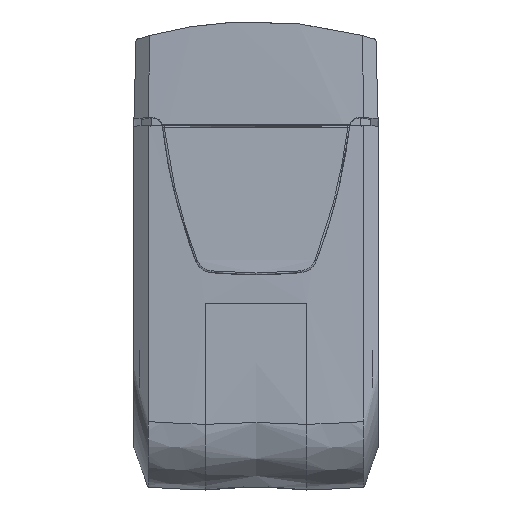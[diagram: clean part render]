
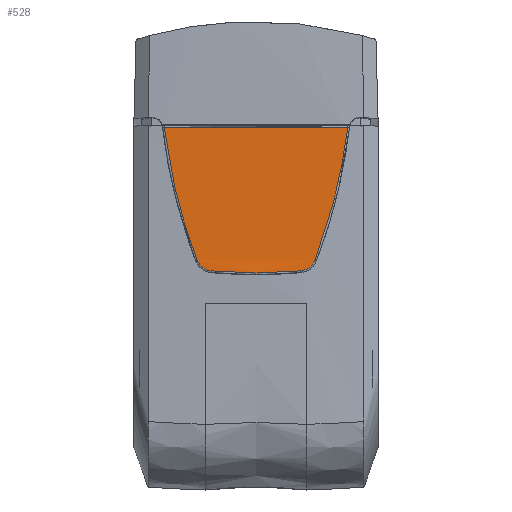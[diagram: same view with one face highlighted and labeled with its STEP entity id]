
A CAD part, left-side view. The second image highlights one B-rep face of the part: STEP entity #528.
In plain terms, the highlighted cylindrical face has radius 84.625 mm (diameter 169.25 mm), a partial arc.
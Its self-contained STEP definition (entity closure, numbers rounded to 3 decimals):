
#389=FACE_OUTER_BOUND('',#744,.T.);
#528=ADVANCED_FACE('',(#389),#579,.T.);
#579=CYLINDRICAL_SURFACE('',#1876,84.625);
#744=EDGE_LOOP('',(#1179,#1180,#1181,#1182,#1183,#1184));
#1179=ORIENTED_EDGE('',*,*,#1613,.T.);
#1180=ORIENTED_EDGE('',*,*,#1614,.T.);
#1181=ORIENTED_EDGE('',*,*,#1615,.T.);
#1182=ORIENTED_EDGE('',*,*,#1616,.T.);
#1183=ORIENTED_EDGE('',*,*,#1617,.T.);
#1184=ORIENTED_EDGE('',*,*,#1618,.T.);
#1397=VERTEX_POINT('',#4394);
#1398=VERTEX_POINT('',#4395);
#1399=VERTEX_POINT('',#4403);
#1400=VERTEX_POINT('',#4408);
#1401=VERTEX_POINT('',#4422);
#1402=VERTEX_POINT('',#4427);
#1613=EDGE_CURVE('',#1397,#1398,#1785,.T.);
#1614=EDGE_CURVE('',#1398,#1399,#1786,.T.);
#1615=EDGE_CURVE('',#1399,#1400,#1787,.T.);
#1616=EDGE_CURVE('',#1400,#1401,#1788,.T.);
#1617=EDGE_CURVE('',#1401,#1402,#1789,.T.);
#1618=EDGE_CURVE('',#1402,#1397,#1790,.T.);
#1785=B_SPLINE_CURVE_WITH_KNOTS('',3,(#4390,#4391,#4392,#4393),
 .UNSPECIFIED.,.F.,.F.,(4,4),(0.,1.),.UNSPECIFIED.);
#1786=B_SPLINE_CURVE_WITH_KNOTS('',3,(#4396,#4397,#4398,#4399,#4400,#4401,
#4402),.UNSPECIFIED.,.F.,.F.,(4,3,4),(0.,0.5,1.),
 .UNSPECIFIED.);
#1787=B_SPLINE_CURVE_WITH_KNOTS('',3,(#4404,#4405,#4406,#4407),
 .UNSPECIFIED.,.F.,.F.,(4,4),(0.,1.),.UNSPECIFIED.);
#1788=B_SPLINE_CURVE_WITH_KNOTS('',3,(#4409,#4410,#4411,#4412,#4413,#4414,
#4415,#4416,#4417,#4418,#4419,#4420,#4421),.UNSPECIFIED.,.F.,.F.,(4,3,3,
3,4),(0.,0.087,0.391,0.696,1.),
 .UNSPECIFIED.);
#1789=B_SPLINE_CURVE_WITH_KNOTS('',3,(#4423,#4424,#4425,#4426),
 .UNSPECIFIED.,.F.,.F.,(4,4),(0.,1.),.UNSPECIFIED.);
#1790=B_SPLINE_CURVE_WITH_KNOTS('',3,(#4428,#4429,#4430,#4431,#4432,#4433,
#4434,#4435,#4436,#4437,#4438,#4439,#4440),.UNSPECIFIED.,.F.,.F.,(4,3,3,
3,4),(0.,0.088,0.392,0.696,1.),
 .UNSPECIFIED.);
#1876=AXIS2_PLACEMENT_3D('',#4441,#2102,#2103);
#2102=DIRECTION('',(0.,0.,1.));
#2103=DIRECTION('',(0.,-1.,0.));
#4390=CARTESIAN_POINT('',(-44.045,-3.136,12.288));
#4391=CARTESIAN_POINT('',(-44.013,-4.004,14.559));
#4392=CARTESIAN_POINT('',(-43.979,-4.597,16.953));
#4393=CARTESIAN_POINT('',(-43.962,-4.889,19.367));
#4394=CARTESIAN_POINT('',(-44.045,-3.136,12.288));
#4395=CARTESIAN_POINT('',(-43.962,-4.889,19.367));
#4396=CARTESIAN_POINT('',(-43.962,-4.889,19.367));
#4397=CARTESIAN_POINT('',(-44.056,-3.262,19.375));
#4398=CARTESIAN_POINT('',(-44.103,-1.63,19.38));
#4399=CARTESIAN_POINT('',(-44.103,0.,19.38));
#4400=CARTESIAN_POINT('',(-44.103,1.63,19.38));
#4401=CARTESIAN_POINT('',(-44.056,3.262,19.375));
#4402=CARTESIAN_POINT('',(-43.962,4.889,19.367));
#4403=CARTESIAN_POINT('',(-43.962,4.889,19.367));
#4404=CARTESIAN_POINT('',(-43.962,4.889,19.367));
#4405=CARTESIAN_POINT('',(-43.979,4.597,16.953));
#4406=CARTESIAN_POINT('',(-44.013,4.004,14.559));
#4407=CARTESIAN_POINT('',(-44.045,3.136,12.288));
#4408=CARTESIAN_POINT('',(-44.045,3.136,12.288));
#4409=CARTESIAN_POINT('',(-44.045,3.136,12.288));
#4410=CARTESIAN_POINT('',(-44.046,3.125,12.261));
#4411=CARTESIAN_POINT('',(-44.046,3.113,12.234));
#4412=CARTESIAN_POINT('',(-44.047,3.1,12.208));
#4413=CARTESIAN_POINT('',(-44.048,3.055,12.118));
#4414=CARTESIAN_POINT('',(-44.051,2.994,12.034));
#4415=CARTESIAN_POINT('',(-44.053,2.921,11.964));
#4416=CARTESIAN_POINT('',(-44.056,2.849,11.894));
#4417=CARTESIAN_POINT('',(-44.058,2.764,11.835));
#4418=CARTESIAN_POINT('',(-44.061,2.672,11.793));
#4419=CARTESIAN_POINT('',(-44.064,2.58,11.75));
#4420=CARTESIAN_POINT('',(-44.067,2.48,11.723));
#4421=CARTESIAN_POINT('',(-44.07,2.38,11.714));
#4422=CARTESIAN_POINT('',(-44.07,2.38,11.714));
#4423=CARTESIAN_POINT('',(-44.07,2.38,11.714));
#4424=CARTESIAN_POINT('',(-44.114,0.801,11.562));
#4425=CARTESIAN_POINT('',(-44.114,-0.801,11.562));
#4426=CARTESIAN_POINT('',(-44.07,-2.38,11.714));
#4427=CARTESIAN_POINT('',(-44.07,-2.38,11.714));
#4428=CARTESIAN_POINT('',(-44.07,-2.38,11.714));
#4429=CARTESIAN_POINT('',(-44.069,-2.409,11.717));
#4430=CARTESIAN_POINT('',(-44.068,-2.438,11.721));
#4431=CARTESIAN_POINT('',(-44.067,-2.467,11.726));
#4432=CARTESIAN_POINT('',(-44.065,-2.566,11.746));
#4433=CARTESIAN_POINT('',(-44.062,-2.663,11.783));
#4434=CARTESIAN_POINT('',(-44.059,-2.75,11.834));
#4435=CARTESIAN_POINT('',(-44.056,-2.837,11.885));
#4436=CARTESIAN_POINT('',(-44.053,-2.917,11.951));
#4437=CARTESIAN_POINT('',(-44.051,-2.982,12.028));
#4438=CARTESIAN_POINT('',(-44.049,-3.047,12.105));
#4439=CARTESIAN_POINT('',(-44.047,-3.1,12.194));
#4440=CARTESIAN_POINT('',(-44.045,-3.136,12.288));
#4441=CARTESIAN_POINT('',(40.522,0.,1.5));
